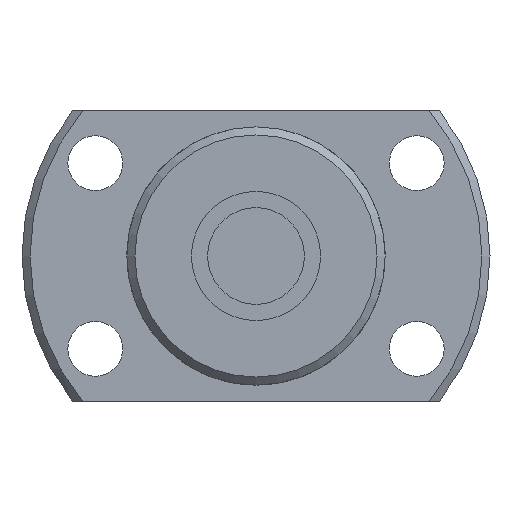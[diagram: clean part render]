
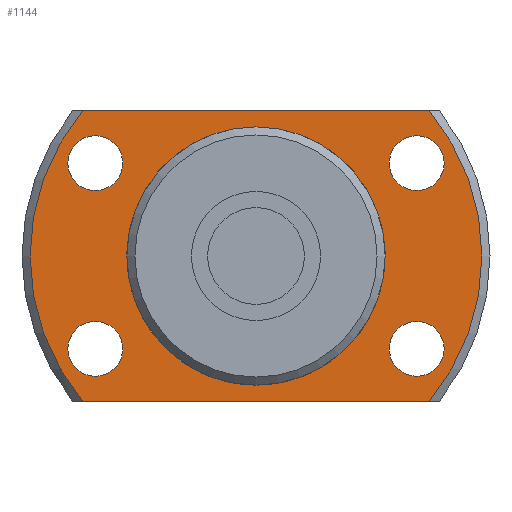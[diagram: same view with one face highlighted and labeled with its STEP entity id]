
A CAD part, left-side view. The second image highlights one B-rep face of the part: STEP entity #1144.
In plain terms, the highlighted planar face has unit normal (-1, 0, 0) as drawn and (1, 0, 0) by its records, which use the part's own axes.
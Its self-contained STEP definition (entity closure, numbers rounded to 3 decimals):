
#123=LINE('',#1982,#191);
#124=LINE('',#1984,#192);
#191=VECTOR('',#1603,1000.);
#192=VECTOR('',#1604,1000.);
#372=ORIENTED_EDGE('',*,*,#622,.T.);
#373=ORIENTED_EDGE('',*,*,#604,.T.);
#374=ORIENTED_EDGE('',*,*,#623,.T.);
#375=ORIENTED_EDGE('',*,*,#624,.T.);
#376=ORIENTED_EDGE('',*,*,#625,.F.);
#377=ORIENTED_EDGE('',*,*,#626,.F.);
#378=ORIENTED_EDGE('',*,*,#627,.F.);
#379=ORIENTED_EDGE('',*,*,#628,.F.);
#380=ORIENTED_EDGE('',*,*,#597,.F.);
#597=EDGE_CURVE('',#731,#731,#813,.T.);
#604=EDGE_CURVE('',#735,#737,#816,.T.);
#622=EDGE_CURVE('',#753,#735,#123,.T.);
#623=EDGE_CURVE('',#737,#754,#124,.T.);
#624=EDGE_CURVE('',#754,#753,#828,.T.);
#625=EDGE_CURVE('',#755,#755,#829,.T.);
#626=EDGE_CURVE('',#756,#756,#830,.T.);
#627=EDGE_CURVE('',#757,#757,#831,.T.);
#628=EDGE_CURVE('',#758,#758,#832,.T.);
#731=VERTEX_POINT('',#1916);
#735=VERTEX_POINT('',#1928);
#737=VERTEX_POINT('',#1935);
#753=VERTEX_POINT('',#1983);
#754=VERTEX_POINT('',#1985);
#755=VERTEX_POINT('',#1988);
#756=VERTEX_POINT('',#1990);
#757=VERTEX_POINT('',#1992);
#758=VERTEX_POINT('',#1994);
#813=CIRCLE('',#1281,7.8);
#816=CIRCLE('',#1285,14.);
#828=CIRCLE('',#1304,14.);
#829=CIRCLE('',#1305,1.7);
#830=CIRCLE('',#1306,1.7);
#831=CIRCLE('',#1307,1.7);
#832=CIRCLE('',#1308,1.7);
#912=EDGE_LOOP('',(#372,#373,#374,#375));
#913=EDGE_LOOP('',(#376));
#914=EDGE_LOOP('',(#377));
#915=EDGE_LOOP('',(#378));
#916=EDGE_LOOP('',(#379));
#917=EDGE_LOOP('',(#380));
#1024=FACE_BOUND('',#912,.T.);
#1025=FACE_BOUND('',#913,.T.);
#1026=FACE_BOUND('',#914,.T.);
#1027=FACE_BOUND('',#915,.T.);
#1028=FACE_BOUND('',#916,.T.);
#1029=FACE_BOUND('',#917,.T.);
#1084=PLANE('',#1303);
#1144=ADVANCED_FACE('',(#1024,#1025,#1026,#1027,#1028,#1029),#1084,.T.);
#1281=AXIS2_PLACEMENT_3D('',#1915,#1551,#1552);
#1285=AXIS2_PLACEMENT_3D('',#1936,#1561,#1562);
#1303=AXIS2_PLACEMENT_3D('',#1981,#1601,#1602);
#1304=AXIS2_PLACEMENT_3D('',#1986,#1605,#1606);
#1305=AXIS2_PLACEMENT_3D('',#1987,#1607,#1608);
#1306=AXIS2_PLACEMENT_3D('',#1989,#1609,#1610);
#1307=AXIS2_PLACEMENT_3D('',#1991,#1611,#1612);
#1308=AXIS2_PLACEMENT_3D('',#1993,#1613,#1614);
#1551=DIRECTION('',(1.,0.,0.));
#1552=DIRECTION('',(0.,0.,-1.));
#1561=DIRECTION('',(1.,0.,0.));
#1562=DIRECTION('',(0.,0.,-1.));
#1601=DIRECTION('',(1.,0.,0.));
#1602=DIRECTION('',(0.,0.,-1.));
#1603=DIRECTION('',(0.,-1.,0.));
#1604=DIRECTION('',(0.,1.,0.));
#1605=DIRECTION('',(1.,0.,0.));
#1606=DIRECTION('',(0.,0.,-1.));
#1607=DIRECTION('',(1.,0.,0.));
#1608=DIRECTION('',(0.,0.,-1.));
#1609=DIRECTION('',(1.,0.,0.));
#1610=DIRECTION('',(0.,0.,-1.));
#1611=DIRECTION('',(1.,0.,0.));
#1612=DIRECTION('',(0.,0.,-1.));
#1613=DIRECTION('',(1.,0.,0.));
#1614=DIRECTION('',(0.,0.,-1.));
#1915=CARTESIAN_POINT('',(4.,0.,0.));
#1916=CARTESIAN_POINT('',(4.,0.,-7.8));
#1928=CARTESIAN_POINT('',(4.,-10.724,9.));
#1935=CARTESIAN_POINT('',(4.,-10.724,-9.));
#1936=CARTESIAN_POINT('',(4.,0.,0.));
#1981=CARTESIAN_POINT('',(4.,7.8,0.));
#1982=CARTESIAN_POINT('',(4.,14.5,9.));
#1983=CARTESIAN_POINT('',(4.,10.724,9.));
#1984=CARTESIAN_POINT('',(4.,-14.5,-9.));
#1985=CARTESIAN_POINT('',(4.,10.724,-9.));
#1986=CARTESIAN_POINT('',(4.,0.,0.));
#1987=CARTESIAN_POINT('',(4.,9.959,5.75));
#1988=CARTESIAN_POINT('',(4.,9.959,4.05));
#1989=CARTESIAN_POINT('',(4.,-9.959,5.75));
#1990=CARTESIAN_POINT('',(4.,-9.959,4.05));
#1991=CARTESIAN_POINT('',(4.,-9.959,-5.75));
#1992=CARTESIAN_POINT('',(4.,-9.959,-7.45));
#1993=CARTESIAN_POINT('',(4.,9.959,-5.75));
#1994=CARTESIAN_POINT('',(4.,9.959,-7.45));
